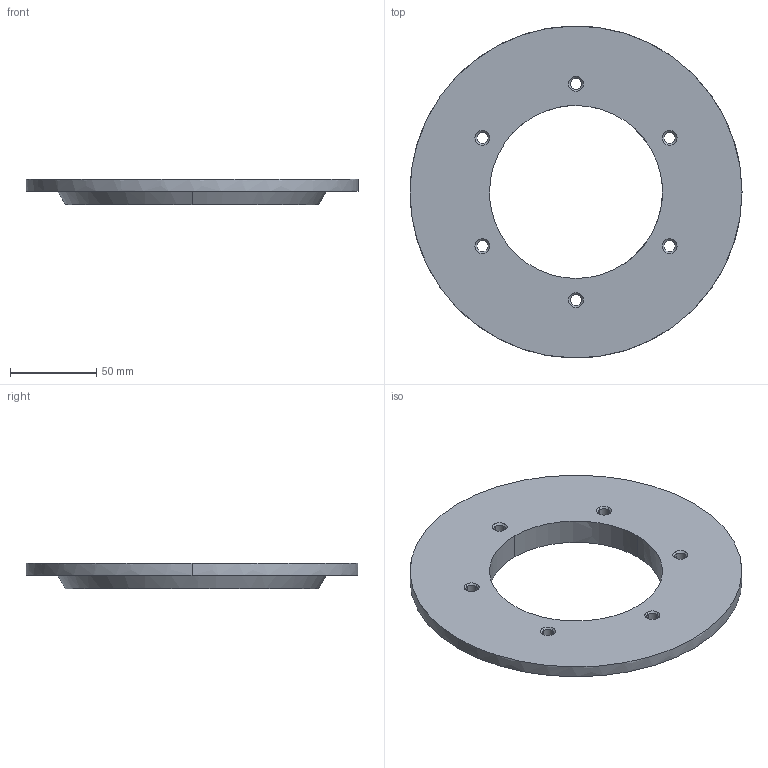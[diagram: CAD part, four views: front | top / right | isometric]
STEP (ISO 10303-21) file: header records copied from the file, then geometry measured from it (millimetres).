
FILE_DESCRIPTION(('CATIA V5 STEP Exchange'),'2;1');
FILE_NAME('D:\交接\张长江\21-Benz H6\光华荣昌转盘数据\H6 转盘\转盘用整椅数据 A9609109920\sample\H6 转盘夏季测试样件方案_20240617\样件数据\钣金件\SHT0017294-5 转盘连接压板.stp','2024-06-19T06:39:02+00:00',('none'),('none'),'CATIA Version 5 Release 20 GA (IN-10)','CATIA V5 STEP AP203 Edition 2','none');
FILE_SCHEMA(('AP203_CONFIGURATION_CONTROLLED_3D_DESIGN_OF_MECHANICAL_PARTS_AND_ASSEMBLIES_MIM_LF { 1 0 10303 403 2 1 2}'));
Length unit declared in the file: millimetre
Products named in the file (1): SHT0017294-5
Bounding box: 192 x 191.97 x 15 mm (x, y, z)
Volume: 199486.4 mm3; surface area: 57123.4 mm2
Topology: 1 solids, 1 shells, 95 faces, 216 edges, 126 vertices
Faces by surface type: cone 50, cylinder 24, bspline 8, extrusion 6, plane 5, torus 2
Entity records: 4039 total; most frequent: CARTESIAN_POINT 1812, ORIENTED_EDGE 432, DIRECTION 348, EDGE_CURVE 216, AXIS2_PLACEMENT_3D 182, VERTEX_POINT 126, EDGE_LOOP 112, CIRCLE 100
